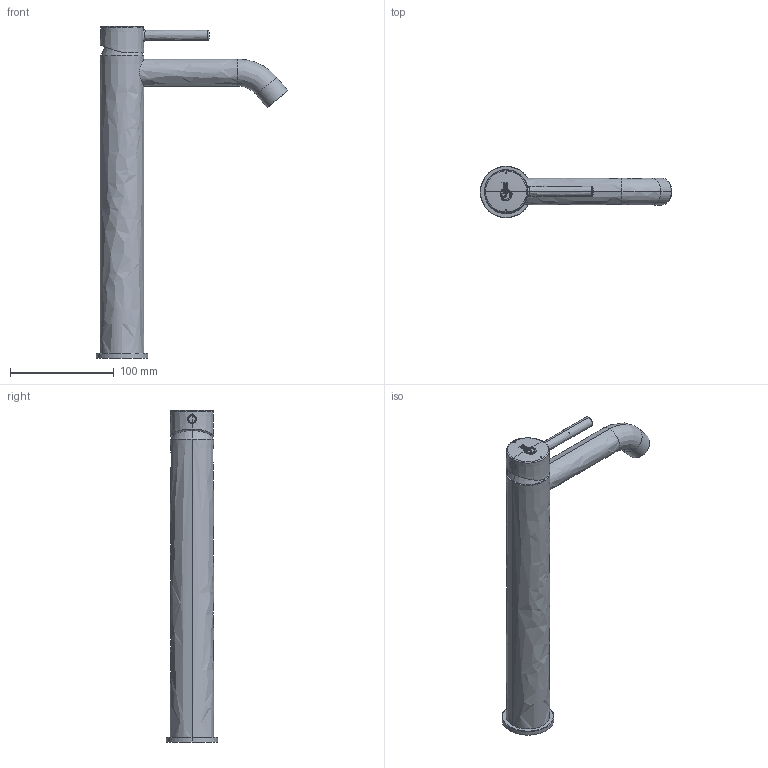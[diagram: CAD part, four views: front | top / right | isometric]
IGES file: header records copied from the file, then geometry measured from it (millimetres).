
Start section:  PTC IGES file: bc269aa_3dpl_.igs
Global section: file name: bc269aa_3dpl_.igs; native system: Creo Parametric by PTC Inc.; preprocessor: 2016130; author: Niki; organization: Unknown; date: 20180202.155441; units: millimetre
Bounding box: 184.96 x 50 x 320.5 mm (x, y, z)
Volume: 523008.3 mm3; surface area: 61593 mm2
Topology: 1 solids, 2 shells, 1117 faces, 2693 edges, 1603 vertices
Faces by surface type: bspline 659, revolution 431, extrusion 27
